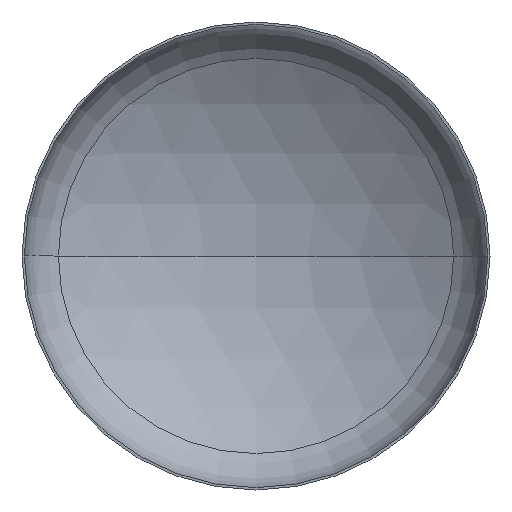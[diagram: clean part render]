
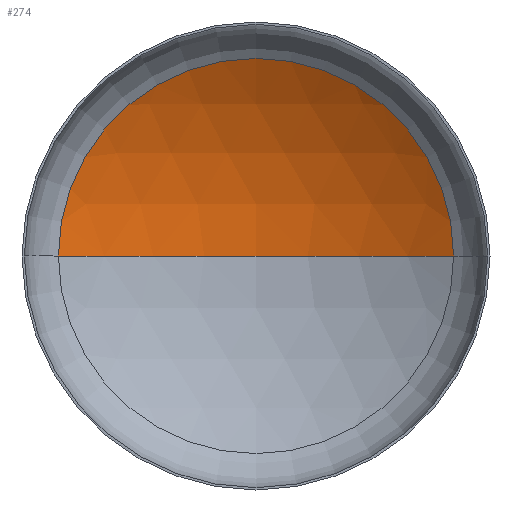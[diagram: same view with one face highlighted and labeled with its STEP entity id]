
A CAD part, front view. The second image highlights one B-rep face of the part: STEP entity #274.
In plain terms, the highlighted spherical face has radius 6000 mm.
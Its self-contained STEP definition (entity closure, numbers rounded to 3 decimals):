
#6 = EDGE_LOOP ( 'NONE', ( #133, #12, #290 ) ) ;
#12 = ORIENTED_EDGE ( 'NONE', *, *, #137, .T. ) ;
#14 = VERTEX_POINT ( 'NONE', #222 ) ;
#34 = VERTEX_POINT ( 'NONE', #257 ) ;
#44 = AXIS2_PLACEMENT_3D ( 'NONE', #134, #381, #141 ) ;
#70 = AXIS2_PLACEMENT_3D ( 'NONE', #379, #170, #200 ) ;
#72 = AXIS2_PLACEMENT_3D ( 'NONE', #162, #165, #166 ) ;
#74 = CIRCLE ( 'NONE', #78, 3166.563 ) ;
#78 = AXIS2_PLACEMENT_3D ( 'NONE', #190, #195, #181 ) ;
#133 = ORIENTED_EDGE ( 'NONE', *, *, #140, .F. ) ;
#134 = CARTESIAN_POINT ( 'NONE',  ( 0., -3995.31, 0. ) ) ;
#136 = EDGE_CURVE ( 'NONE', #34, #276, #74, .T. ) ;
#137 = EDGE_CURVE ( 'NONE', #14, #34, #251, .T. ) ;
#140 = EDGE_CURVE ( 'NONE', #14, #276, #307, .T. ) ;
#141 = DIRECTION ( 'NONE',  ( -1., 0., 0. ) ) ;
#152 = CARTESIAN_POINT ( 'NONE',  ( -3166.563, 1101.049, 0. ) ) ;
#162 = CARTESIAN_POINT ( 'NONE',  ( 0., -3995.31, 0. ) ) ;
#165 = DIRECTION ( 'NONE',  ( 0., 0., -1. ) ) ;
#166 = DIRECTION ( 'NONE',  ( -1., 0., 0. ) ) ;
#170 = DIRECTION ( 'NONE',  ( 0., 0., 1. ) ) ;
#181 = DIRECTION ( 'NONE',  ( 1., 0., 0. ) ) ;
#190 = CARTESIAN_POINT ( 'NONE',  ( 0., 1101.049, 0. ) ) ;
#195 = DIRECTION ( 'NONE',  ( 0., -1., 0. ) ) ;
#200 = DIRECTION ( 'NONE',  ( 1., 0., 0. ) ) ;
#220 = SPHERICAL_SURFACE ( 'NONE', #44, 6000. ) ;
#222 = CARTESIAN_POINT ( 'NONE',  ( 0., 2004.69, 0. ) ) ;
#236 = FACE_OUTER_BOUND ( 'NONE', #6, .T. ) ;
#251 = CIRCLE ( 'NONE', #72, 6000. ) ;
#257 = CARTESIAN_POINT ( 'NONE',  ( 3166.563, 1101.049, 0. ) ) ;
#274 = ADVANCED_FACE ( 'NONE', ( #236 ), #220, .F. ) ;
#276 = VERTEX_POINT ( 'NONE', #152 ) ;
#290 = ORIENTED_EDGE ( 'NONE', *, *, #136, .T. ) ;
#307 = CIRCLE ( 'NONE', #70, 6000. ) ;
#379 = CARTESIAN_POINT ( 'NONE',  ( 0., -3995.31, 0. ) ) ;
#381 = DIRECTION ( 'NONE',  ( 0., 0., -1. ) ) ;
